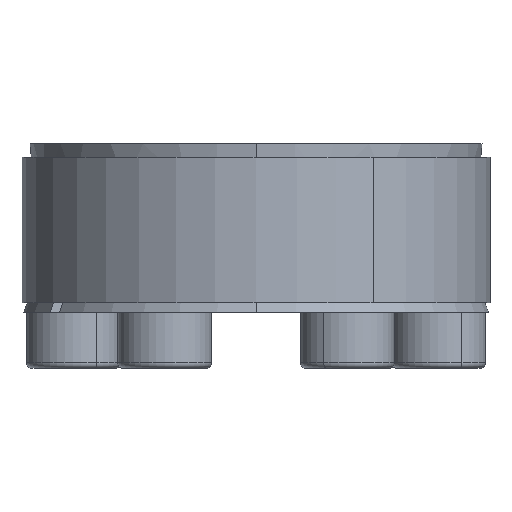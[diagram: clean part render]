
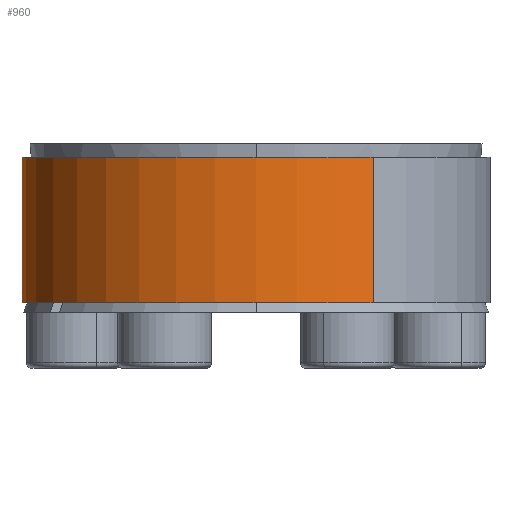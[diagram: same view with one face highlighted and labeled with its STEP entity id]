
A CAD part, left-side view. The second image highlights one B-rep face of the part: STEP entity #960.
In plain terms, the highlighted cylindrical face has radius 24.99 mm (diameter 49.98 mm), a partial arc.
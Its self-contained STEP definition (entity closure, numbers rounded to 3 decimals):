
#960 = ADVANCED_FACE ( 'NONE', ( #3245 ), #2306, .T. ) ;
#1133 = LINE ( 'NONE', #7233, #5125 ) ;
#1154 = DIRECTION ( 'NONE',  ( 0., 0., 1. ) ) ;
#1228 = CARTESIAN_POINT ( 'NONE',  ( -21.642, -12.495, 16.527 ) ) ;
#1249 = ORIENTED_EDGE ( 'NONE', *, *, #7759, .T. ) ;
#1471 = DIRECTION ( 'NONE',  ( 0.866, 0.5, 0. ) ) ;
#1557 = DIRECTION ( 'NONE',  ( 0., 0., 1. ) ) ;
#1875 = EDGE_CURVE ( 'NONE', #5264, #4782, #4488, .T. ) ;
#2306 = CYLINDRICAL_SURFACE ( 'NONE', #5750, 24.99 ) ;
#3245 = FACE_OUTER_BOUND ( 'NONE', #9559, .T. ) ;
#3451 = DIRECTION ( 'NONE',  ( 0., 0., -1. ) ) ;
#3706 = ORIENTED_EDGE ( 'NONE', *, *, #7973, .F. ) ;
#3744 = AXIS2_PLACEMENT_3D ( 'NONE', #6047, #1557, #6817 ) ;
#4087 = VERTEX_POINT ( 'NONE', #8220 ) ;
#4221 = DIRECTION ( 'NONE',  ( 0., 0., -1. ) ) ;
#4488 = CIRCLE ( 'NONE', #3744, 24.99 ) ;
#4651 = LINE ( 'NONE', #1228, #8405 ) ;
#4652 = AXIS2_PLACEMENT_3D ( 'NONE', #5641, #1154, #6398 ) ;
#4782 = VERTEX_POINT ( 'NONE', #7589 ) ;
#5125 = VECTOR ( 'NONE', #3451, 1000. ) ;
#5199 = ORIENTED_EDGE ( 'NONE', *, *, #1875, .T. ) ;
#5264 = VERTEX_POINT ( 'NONE', #5306 ) ;
#5306 = CARTESIAN_POINT ( 'NONE',  ( 21.642, 12.495, 1.027 ) ) ;
#5562 = CIRCLE ( 'NONE', #4652, 24.99 ) ;
#5641 = CARTESIAN_POINT ( 'NONE',  ( 0., 0., 16.527 ) ) ;
#5750 = AXIS2_PLACEMENT_3D ( 'NONE', #6694, #8922, #1471 ) ;
#6047 = CARTESIAN_POINT ( 'NONE',  ( 0., 0., 1.027 ) ) ;
#6398 = DIRECTION ( 'NONE',  ( -0.866, -0.5, 0. ) ) ;
#6607 = CARTESIAN_POINT ( 'NONE',  ( -21.642, -12.495, 16.527 ) ) ;
#6694 = CARTESIAN_POINT ( 'NONE',  ( 0., 0., 16.527 ) ) ;
#6817 = DIRECTION ( 'NONE',  ( -0.866, -0.5, 0. ) ) ;
#7226 = EDGE_CURVE ( 'NONE', #7369, #4782, #4651, .T. ) ;
#7233 = CARTESIAN_POINT ( 'NONE',  ( 21.642, 12.495, 16.527 ) ) ;
#7369 = VERTEX_POINT ( 'NONE', #6607 ) ;
#7589 = CARTESIAN_POINT ( 'NONE',  ( -21.642, -12.495, 1.027 ) ) ;
#7759 = EDGE_CURVE ( 'NONE', #4087, #5264, #1133, .T. ) ;
#7973 = EDGE_CURVE ( 'NONE', #4087, #7369, #5562, .T. ) ;
#8220 = CARTESIAN_POINT ( 'NONE',  ( 21.642, 12.495, 16.527 ) ) ;
#8320 = ORIENTED_EDGE ( 'NONE', *, *, #7226, .F. ) ;
#8405 = VECTOR ( 'NONE', #4221, 1000. ) ;
#8922 = DIRECTION ( 'NONE',  ( 0., 0., -1. ) ) ;
#9559 = EDGE_LOOP ( 'NONE', ( #8320, #3706, #1249, #5199 ) ) ;
